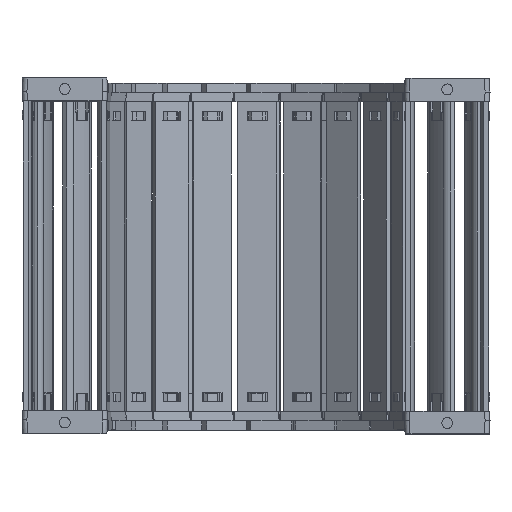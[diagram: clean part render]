
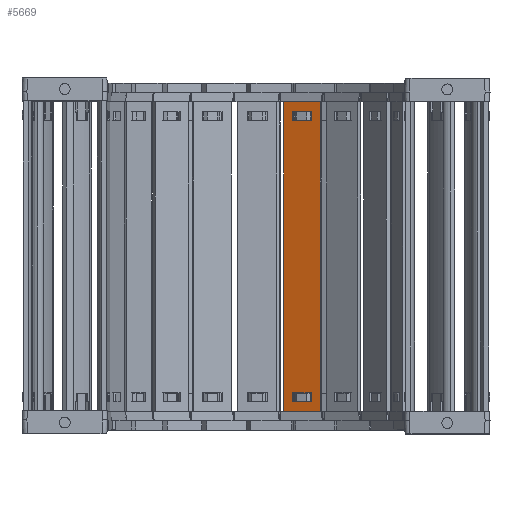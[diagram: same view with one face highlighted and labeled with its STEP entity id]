
A CAD part, top view. The second image highlights one B-rep face of the part: STEP entity #5669.
In plain terms, the highlighted planar face has unit normal (-0.342, 0, 0.94) as drawn and (0, 1, 0) by its records, which use the part's own axes.
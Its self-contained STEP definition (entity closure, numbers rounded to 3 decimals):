
#5089=DIRECTION('',(0.,0.,1.));
#5090=VECTOR('',#5089,15.8);
#5091=CARTESIAN_POINT('',(110.74,1.5,-7.9));
#5092=LINE('',#5091,#5090);
#5093=DIRECTION('',(-1.,0.,0.));
#5094=VECTOR('',#5093,125.5);
#5095=CARTESIAN_POINT('',(110.74,1.5,7.9));
#5096=LINE('',#5095,#5094);
#5097=DIRECTION('',(0.,0.,-1.));
#5098=VECTOR('',#5097,15.8);
#5099=CARTESIAN_POINT('',(-14.76,1.5,7.9));
#5100=LINE('',#5099,#5098);
#5101=DIRECTION('',(1.,0.,0.));
#5102=VECTOR('',#5101,3.648);
#5103=CARTESIAN_POINT('',(103.122,1.5,4.075));
#5104=LINE('',#5103,#5102);
#5105=DIRECTION('',(0.,0.,-1.));
#5106=VECTOR('',#5105,8.15);
#5107=CARTESIAN_POINT('',(106.77,1.5,4.075));
#5108=LINE('',#5107,#5106);
#5109=DIRECTION('',(-1.,0.,0.));
#5110=VECTOR('',#5109,3.648);
#5111=CARTESIAN_POINT('',(106.77,1.5,-4.075));
#5112=LINE('',#5111,#5110);
#5113=DIRECTION('',(0.,0.,-1.));
#5114=VECTOR('',#5113,8.15);
#5115=CARTESIAN_POINT('',(-7.142,1.5,4.075));
#5116=LINE('',#5115,#5114);
#5117=DIRECTION('',(-1.,0.,0.));
#5118=VECTOR('',#5117,3.648);
#5119=CARTESIAN_POINT('',(-7.142,1.5,-4.075));
#5120=LINE('',#5119,#5118);
#5121=DIRECTION('',(0.,0.,1.));
#5122=VECTOR('',#5121,8.15);
#5123=CARTESIAN_POINT('',(-10.79,1.5,-4.075));
#5124=LINE('',#5123,#5122);
#5125=DIRECTION('',(1.,0.,0.));
#5126=VECTOR('',#5125,3.648);
#5127=CARTESIAN_POINT('',(-10.79,1.5,4.075));
#5128=LINE('',#5127,#5126);
#5133=DIRECTION('',(-1.,0.,0.));
#5134=VECTOR('',#5133,125.5);
#5135=CARTESIAN_POINT('',(110.74,1.5,-7.9));
#5136=LINE('',#5135,#5134);
#5254=DIRECTION('',(0.,0.,-1.));
#5255=VECTOR('',#5254,8.15);
#5256=CARTESIAN_POINT('',(103.122,1.5,4.075));
#5257=LINE('',#5256,#5255);
#5439=CARTESIAN_POINT('',(106.77,1.5,4.075));
#5440=VERTEX_POINT('',#5439);
#5441=CARTESIAN_POINT('',(103.122,1.5,4.075));
#5442=VERTEX_POINT('',#5441);
#5483=CARTESIAN_POINT('',(103.122,1.5,-4.075));
#5484=VERTEX_POINT('',#5483);
#5485=CARTESIAN_POINT('',(106.77,1.5,-4.075));
#5486=VERTEX_POINT('',#5485);
#5487=CARTESIAN_POINT('',(110.74,1.5,7.9));
#5489=VERTEX_POINT('',#5487);
#5491=CARTESIAN_POINT('',(110.74,1.5,-7.9));
#5492=VERTEX_POINT('',#5491);
#5515=CARTESIAN_POINT('',(-7.142,1.5,4.075));
#5516=CARTESIAN_POINT('',(-7.142,1.5,-4.075));
#5517=VERTEX_POINT('',#5515);
#5518=VERTEX_POINT('',#5516);
#5519=CARTESIAN_POINT('',(-10.79,1.5,-4.075));
#5520=VERTEX_POINT('',#5519);
#5521=CARTESIAN_POINT('',(-10.79,1.5,4.075));
#5522=VERTEX_POINT('',#5521);
#5523=CARTESIAN_POINT('',(-14.76,1.5,7.9));
#5524=VERTEX_POINT('',#5523);
#5527=CARTESIAN_POINT('',(-14.76,1.5,-7.9));
#5528=VERTEX_POINT('',#5527);
#5638=CARTESIAN_POINT('',(142.48,1.5,10.061));
#5639=DIRECTION('',(0.,-1.,0.));
#5640=DIRECTION('',(0.,0.,-1.));
#5641=AXIS2_PLACEMENT_3D('',#5638,#5639,#5640);
#5642=PLANE('',#5641);
#5643=ORIENTED_EDGE('',*,*,#5577,.T.);
#5644=ORIENTED_EDGE('',*,*,#5603,.T.);
#5645=ORIENTED_EDGE('',*,*,#5616,.T.);
#5647=ORIENTED_EDGE('',*,*,#5646,.F.);
#5648=EDGE_LOOP('',(#5643,#5644,#5645,#5647));
#5649=FACE_OUTER_BOUND('',#5648,.F.);
#5651=ORIENTED_EDGE('',*,*,#5650,.F.);
#5652=ORIENTED_EDGE('',*,*,#5540,.T.);
#5654=ORIENTED_EDGE('',*,*,#5653,.T.);
#5656=ORIENTED_EDGE('',*,*,#5655,.T.);
#5657=EDGE_LOOP('',(#5651,#5652,#5654,#5656));
#5658=FACE_BOUND('',#5657,.F.);
#5660=ORIENTED_EDGE('',*,*,#5659,.T.);
#5662=ORIENTED_EDGE('',*,*,#5661,.T.);
#5664=ORIENTED_EDGE('',*,*,#5663,.T.);
#5666=ORIENTED_EDGE('',*,*,#5665,.T.);
#5667=EDGE_LOOP('',(#5660,#5662,#5664,#5666));
#5668=FACE_BOUND('',#5667,.F.);
#5669=ADVANCED_FACE('',(#5649,#5658,#5668),#5642,.F.);
#5540=EDGE_CURVE('',#5442,#5440,#5104,.T.);
#5577=EDGE_CURVE('',#5492,#5489,#5092,.T.);
#5603=EDGE_CURVE('',#5489,#5524,#5096,.T.);
#5616=EDGE_CURVE('',#5524,#5528,#5100,.T.);
#5646=EDGE_CURVE('',#5492,#5528,#5136,.T.);
#5650=EDGE_CURVE('',#5442,#5484,#5257,.T.);
#5653=EDGE_CURVE('',#5440,#5486,#5108,.T.);
#5655=EDGE_CURVE('',#5486,#5484,#5112,.T.);
#5659=EDGE_CURVE('',#5517,#5518,#5116,.T.);
#5661=EDGE_CURVE('',#5518,#5520,#5120,.T.);
#5663=EDGE_CURVE('',#5520,#5522,#5124,.T.);
#5665=EDGE_CURVE('',#5522,#5517,#5128,.T.);
